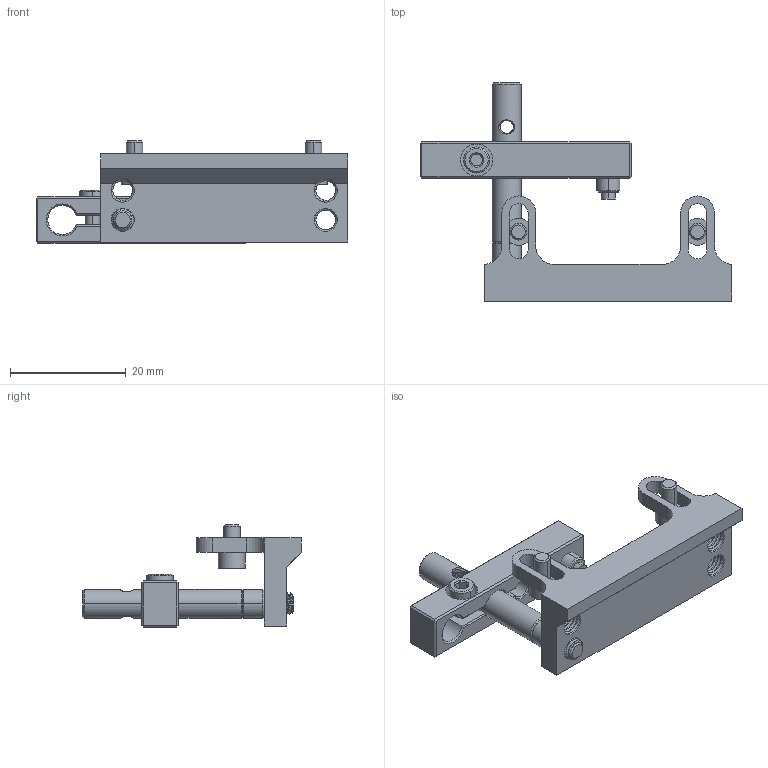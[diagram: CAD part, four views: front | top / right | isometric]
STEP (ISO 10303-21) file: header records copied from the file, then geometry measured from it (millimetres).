
FILE_DESCRIPTION((''),'2;1');
FILE_NAME('MPV-L_ASM','2020-10-26T',('Administrator'),(''),'CREO PARAMETRIC BY PTC INC, 2015290','CREO PARAMETRIC BY PTC INC, 2015290','');
FILE_SCHEMA(('CONFIG_CONTROL_DESIGN'));
Length unit declared in the file: millimetre
Products named in the file (9): M4X8_HSP; M3X5_HM; MPV-L_A1; PRK3-A30_A1; M3X5_HM_2; M3X6_HM; PRK3-A30_A2; MPV-L_A_ASM; MPV-L_ASM
Assembly tree (8 placements, depth 3):
  MPV-L_ASM
    MPV-L_A_ASM
      M4X8_HSP
      M3X5_HM
      MPV-L_A1
      PRK3-A30_A1
      M3X5_HM_2
      M3X6_HM
      PRK3-A30_A2
Bounding box: 53.8 x 37.72 x 17.65 mm (x, y, z)
Volume: 5073 mm3; surface area: 5090.4 mm2
Topology: 7 solids, 7 shells, 382 faces, 975 edges, 613 vertices
Faces by surface type: cylinder 141, plane 124, bspline 60, cone 57
Entity records: 19749 total; most frequent: CARTESIAN_POINT 10960, ORIENTED_EDGE 1946, DIRECTION 1517, EDGE_CURVE 973, VERTEX_POINT 613, AXIS2_PLACEMENT_3D 519, VECTOR 479, LINE 479
